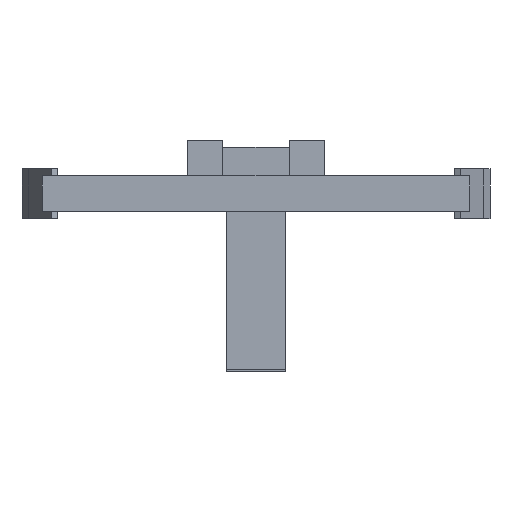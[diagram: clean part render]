
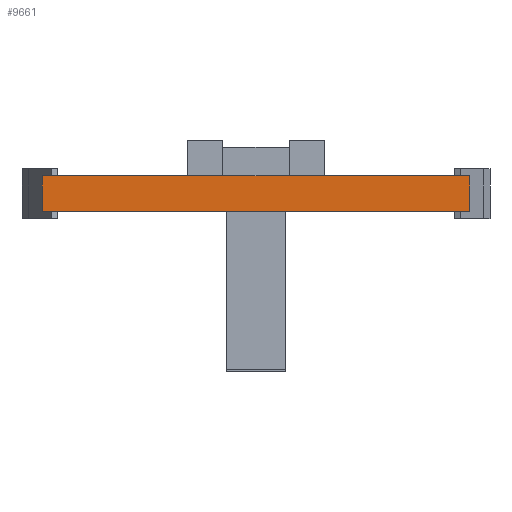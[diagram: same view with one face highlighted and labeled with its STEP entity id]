
A CAD part, front view. The second image highlights one B-rep face of the part: STEP entity #9661.
In plain terms, the highlighted planar face has unit normal (0, -1, 0).
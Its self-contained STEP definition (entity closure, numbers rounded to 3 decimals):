
#5=DIRECTION('',(1.,0.,0.));
#6=VECTOR('',#5,56.);
#7=CARTESIAN_POINT('',(-28.,125.,0.));
#8=LINE('',#7,#6);
#1205=DIRECTION('',(-1.,0.,0.));
#1206=VECTOR('',#1205,152.);
#1207=CARTESIAN_POINT('',(-28.,125.,0.));
#1208=LINE('',#1207,#1206);
#1233=DIRECTION('',(-1.,0.,0.));
#1234=VECTOR('',#1233,152.);
#1235=CARTESIAN_POINT('',(180.,125.,0.));
#1236=LINE('',#1235,#1234);
#1277=DIRECTION('',(0.,0.,-1.));
#1278=VECTOR('',#1277,30.);
#1279=CARTESIAN_POINT('',(-180.,125.,0.));
#1280=LINE('',#1279,#1278);
#1297=DIRECTION('',(-1.,0.,0.));
#1298=VECTOR('',#1297,360.);
#1299=CARTESIAN_POINT('',(180.,125.,-30.));
#1300=LINE('',#1299,#1298);
#1329=DIRECTION('',(0.,0.,-1.));
#1330=VECTOR('',#1329,30.);
#1331=CARTESIAN_POINT('',(180.,125.,0.));
#1332=LINE('',#1331,#1330);
#6057=CARTESIAN_POINT('',(180.,125.,-30.));
#6058=CARTESIAN_POINT('',(-180.,125.,-30.));
#6059=VERTEX_POINT('',#6057);
#6060=VERTEX_POINT('',#6058);
#6065=CARTESIAN_POINT('',(180.,125.,0.));
#6066=VERTEX_POINT('',#6065);
#6067=CARTESIAN_POINT('',(-180.,125.,0.));
#6068=VERTEX_POINT('',#6067);
#6073=CARTESIAN_POINT('',(28.,125.,0.));
#6074=VERTEX_POINT('',#6073);
#6123=CARTESIAN_POINT('',(-28.,125.,0.));
#6124=VERTEX_POINT('',#6123);
#9647=CARTESIAN_POINT('',(180.,125.,0.));
#9648=DIRECTION('',(0.,-1.,0.));
#9649=DIRECTION('',(-1.,0.,0.));
#9650=AXIS2_PLACEMENT_3D('',#9647,#9648,#9649);
#9651=PLANE('',#9650);
#9652=ORIENTED_EDGE('',*,*,#9507,.F.);
#9654=ORIENTED_EDGE('',*,*,#9653,.T.);
#9655=ORIENTED_EDGE('',*,*,#9629,.T.);
#9656=ORIENTED_EDGE('',*,*,#9613,.F.);
#9657=ORIENTED_EDGE('',*,*,#9485,.F.);
#9658=ORIENTED_EDGE('',*,*,#8028,.T.);
#9659=EDGE_LOOP('',(#9652,#9654,#9655,#9656,#9657,#9658));
#9660=FACE_OUTER_BOUND('',#9659,.F.);
#9661=ADVANCED_FACE('',(#9660),#9651,.T.);
#8028=EDGE_CURVE('',#6124,#6074,#8,.T.);
#9485=EDGE_CURVE('',#6124,#6068,#1208,.T.);
#9507=EDGE_CURVE('',#6066,#6074,#1236,.T.);
#9613=EDGE_CURVE('',#6068,#6060,#1280,.T.);
#9629=EDGE_CURVE('',#6059,#6060,#1300,.T.);
#9653=EDGE_CURVE('',#6066,#6059,#1332,.T.);
